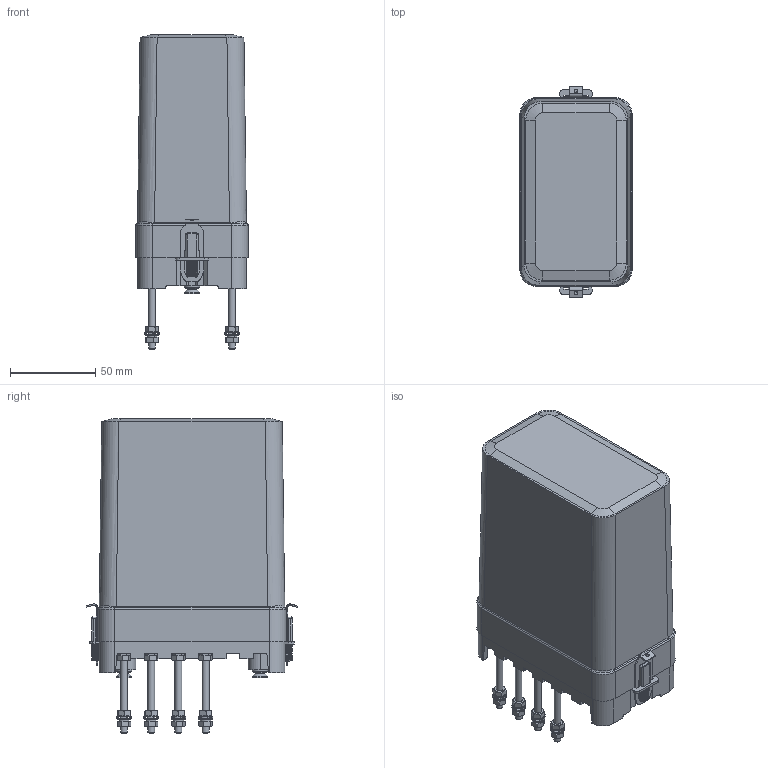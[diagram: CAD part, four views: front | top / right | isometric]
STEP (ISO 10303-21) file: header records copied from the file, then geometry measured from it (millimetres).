
FILE_DESCRIPTION(('STEP AP214'), '1');
FILE_NAME('幸-40 玎漤邋 桦铋', '', ('UNSPECIFIED'), ('UNSPECIFIED'), 'ASCON STEP Converter 1.3', 'ASCON Math Kernel', '');
FILE_SCHEMA(('AUTOMOTIVE_DESIGN { 1 0 10303 214 3 1 1}'));
Length unit declared in the file: millimetre
Bounding box: 66 x 124.52 x 185 mm (x, y, z)
Volume: 168426.2 mm3; surface area: 133821.1 mm2
Topology: 4 solids, 10 shells, 1858 faces, 5009 edges, 3170 vertices
Faces by surface type: plane 1200, cylinder 436, torus 106, cone 72, bspline 42, sphere 2
Full cylindrical faces by diameter (mm): 2 x2, 3.242 x8, 3.5 x2, 4 x34, 4.2 x8, 4.3 x10, 5 x2, 5.3 x4, 5.5 x14, 8 x10, 9 x2, 9.3 x2
Entity records: 94344 total; most frequent: CARTESIAN_POINT 33800, ORIENTED_EDGE 9622, DIRECTION 9121, EDGE_CURVE 4817, VERTEX_POINT 3166, AXIS2_PLACEMENT_3D 3089, LINE 2943, VECTOR 2943
